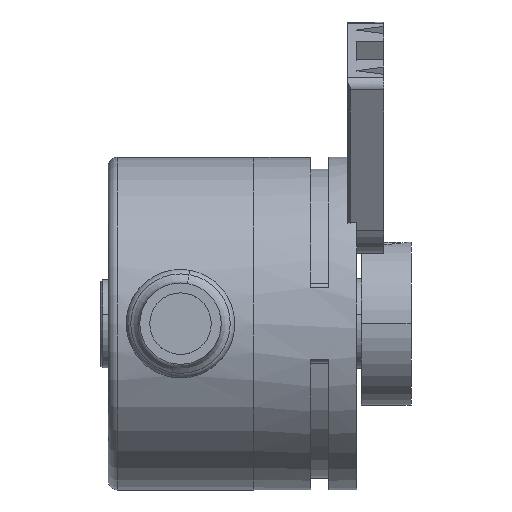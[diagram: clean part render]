
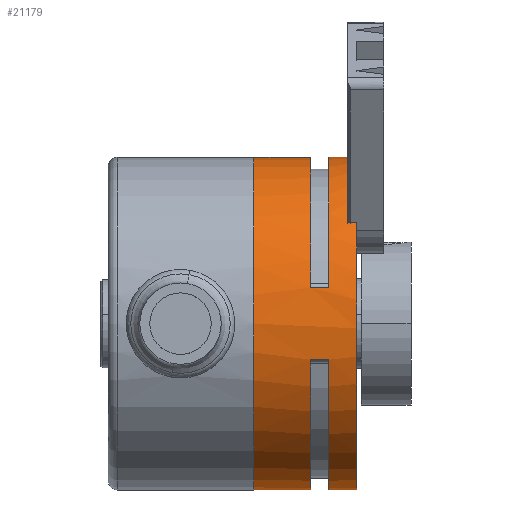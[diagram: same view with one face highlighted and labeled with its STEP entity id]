
A CAD part, front view. The second image highlights one B-rep face of the part: STEP entity #21179.
In plain terms, the highlighted cylindrical face has radius 18.4 mm (diameter 36.8 mm), a partial arc.
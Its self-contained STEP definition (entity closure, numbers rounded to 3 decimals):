
#592 = VERTEX_POINT ( 'NONE', #29498 ) ;
#667 = EDGE_CURVE ( 'NONE', #592, #25739, #29529, .T. ) ;
#924 = VERTEX_POINT ( 'NONE', #29539 ) ;
#948 = VERTEX_POINT ( 'NONE', #29537 ) ;
#993 = EDGE_CURVE ( 'NONE', #23570, #924, #29588, .T. ) ;
#7669 = CARTESIAN_POINT ( 'NONE',  ( -81.16, -17.498, -18.4 ) ) ;
#9810 = CARTESIAN_POINT ( 'NONE',  ( -92.56, -17.498, 18.4 ) ) ;
#9828 = CARTESIAN_POINT ( 'NONE',  ( -81.16, -17.498, 18.4 ) ) ;
#12982 = CARTESIAN_POINT ( 'NONE',  ( -84.26, -17.498, -18.4 ) ) ;
#17295 = DIRECTION ( 'NONE',  ( 1., 0., 0. ) ) ;
#17296 = VECTOR ( 'NONE', #17295, 1000. ) ;
#17298 = CARTESIAN_POINT ( 'NONE',  ( -76.76, -17.498, -18.4 ) ) ;
#17304 = LINE ( 'NONE', #17298, #17296 ) ;
#21159 = ORIENTED_EDGE ( 'NONE', *, *, #993, .F. ) ;
#21160 = ORIENTED_EDGE ( 'NONE', *, *, #21175, .T. ) ;
#21163 = ORIENTED_EDGE ( 'NONE', *, *, #29284, .T. ) ;
#21164 = ORIENTED_EDGE ( 'NONE', *, *, #21165, .T. ) ;
#21165 = EDGE_CURVE ( 'NONE', #29280, #21166, #32139, .T. ) ;
#21166 = VERTEX_POINT ( 'NONE', #32188 ) ;
#21167 = ORIENTED_EDGE ( 'NONE', *, *, #21202, .T. ) ;
#21175 = EDGE_CURVE ( 'NONE', #23570, #948, #32182, .T. ) ;
#21179 = ADVANCED_FACE ( 'NONE', ( #32171 ), #32211, .T. ) ;
#21180 = EDGE_LOOP ( 'NONE', ( #21159, #21160, #21163, #21164, #21167, #21206, #21211, #21210, #21226, #21186, #21199, #21197, #21203, #21204, #21219, #21193 ) ) ;
#21186 = ORIENTED_EDGE ( 'NONE', *, *, #21187, .F. ) ;
#21187 = EDGE_CURVE ( 'NONE', #21188, #21222, #32197, .T. ) ;
#21188 = VERTEX_POINT ( 'NONE', #32192 ) ;
#21193 = ORIENTED_EDGE ( 'NONE', *, *, #21194, .T. ) ;
#21194 = EDGE_CURVE ( 'NONE', #21200, #924, #32250, .T. ) ;
#21195 = EDGE_CURVE ( 'NONE', #21188, #21196, #32251, .T. ) ;
#21196 = VERTEX_POINT ( 'NONE', #32242 ) ;
#21197 = ORIENTED_EDGE ( 'NONE', *, *, #21272, .F. ) ;
#21198 = EDGE_CURVE ( 'NONE', #21218, #592, #32241, .T. ) ;
#21199 = ORIENTED_EDGE ( 'NONE', *, *, #21195, .T. ) ;
#21200 = VERTEX_POINT ( 'NONE', #32236 ) ;
#21202 = EDGE_CURVE ( 'NONE', #21166, #21205, #32235, .T. ) ;
#21203 = ORIENTED_EDGE ( 'NONE', *, *, #667, .F. ) ;
#21204 = ORIENTED_EDGE ( 'NONE', *, *, #21198, .F. ) ;
#21205 = VERTEX_POINT ( 'NONE', #32231 ) ;
#21206 = ORIENTED_EDGE ( 'NONE', *, *, #21228, .F. ) ;
#21210 = ORIENTED_EDGE ( 'NONE', *, *, #21212, .F. ) ;
#21211 = ORIENTED_EDGE ( 'NONE', *, *, #24453, .T. ) ;
#21212 = EDGE_CURVE ( 'NONE', #21227, #25398, #32262, .T. ) ;
#21218 = VERTEX_POINT ( 'NONE', #32303 ) ;
#21219 = ORIENTED_EDGE ( 'NONE', *, *, #21220, .F. ) ;
#21220 = EDGE_CURVE ( 'NONE', #21200, #21218, #32302, .T. ) ;
#21221 = EDGE_CURVE ( 'NONE', #21222, #21227, #32298, .T. ) ;
#21222 = VERTEX_POINT ( 'NONE', #32294 ) ;
#21226 = ORIENTED_EDGE ( 'NONE', *, *, #21221, .F. ) ;
#21227 = VERTEX_POINT ( 'NONE', #32288 ) ;
#21228 = EDGE_CURVE ( 'NONE', #23983, #21205, #32287, .T. ) ;
#21272 = EDGE_CURVE ( 'NONE', #25739, #21196, #32375, .T. ) ;
#23570 = VERTEX_POINT ( 'NONE', #9810 ) ;
#23983 = VERTEX_POINT ( 'NONE', #12982 ) ;
#24453 = EDGE_CURVE ( 'NONE', #23983, #25398, #17304, .T. ) ;
#25398 = VERTEX_POINT ( 'NONE', #7669 ) ;
#25739 = VERTEX_POINT ( 'NONE', #9828 ) ;
#29280 = VERTEX_POINT ( 'NONE', #35726 ) ;
#29284 = EDGE_CURVE ( 'NONE', #948, #29280, #35704, .T. ) ;
#29498 = CARTESIAN_POINT ( 'NONE',  ( -84.26, -17.498, 18.4 ) ) ;
#29526 = DIRECTION ( 'NONE',  ( 1., 0., 0. ) ) ;
#29527 = VECTOR ( 'NONE', #29526, 1000. ) ;
#29528 = CARTESIAN_POINT ( 'NONE',  ( -76.76, -17.498, 18.4 ) ) ;
#29529 = LINE ( 'NONE', #29528, #29527 ) ;
#29537 = CARTESIAN_POINT ( 'NONE',  ( -92.56, -17.498, -18.4 ) ) ;
#29539 = CARTESIAN_POINT ( 'NONE',  ( -86.26, -17.498, 18.4 ) ) ;
#29581 = DIRECTION ( 'NONE',  ( 1., 0., 0. ) ) ;
#29582 = VECTOR ( 'NONE', #29581, 1000. ) ;
#29583 = CARTESIAN_POINT ( 'NONE',  ( -76.76, -17.498, 18.4 ) ) ;
#29588 = LINE ( 'NONE', #29583, #29582 ) ;
#32135 = DIRECTION ( 'NONE',  ( 0., 0., 1. ) ) ;
#32136 = DIRECTION ( 'NONE',  ( -1., 0., 0. ) ) ;
#32137 = CARTESIAN_POINT ( 'NONE',  ( -86.26, -17.498, 0. ) ) ;
#32138 = AXIS2_PLACEMENT_3D ( 'NONE', #32137, #32136, #32135 ) ;
#32139 = CIRCLE ( 'NONE', #32138, 18.4 ) ;
#32171 = FACE_OUTER_BOUND ( 'NONE', #21180, .T. ) ;
#32178 = DIRECTION ( 'NONE',  ( 0., 0., -1. ) ) ;
#32179 = DIRECTION ( 'NONE',  ( 1., 0., 0. ) ) ;
#32180 = CARTESIAN_POINT ( 'NONE',  ( -92.56, -17.498, 0. ) ) ;
#32181 = AXIS2_PLACEMENT_3D ( 'NONE', #32180, #32179, #32178 ) ;
#32182 = CIRCLE ( 'NONE', #32181, 18.4 ) ;
#32188 = CARTESIAN_POINT ( 'NONE',  ( -86.26, -35.458, -4. ) ) ;
#32192 = CARTESIAN_POINT ( 'NONE',  ( -82.16, -19.944, 18.237 ) ) ;
#32193 = DIRECTION ( 'NONE',  ( 0., 0., -1. ) ) ;
#32194 = DIRECTION ( 'NONE',  ( 1., 0., 0. ) ) ;
#32195 = CARTESIAN_POINT ( 'NONE',  ( -82.16, -17.498, 0. ) ) ;
#32196 = AXIS2_PLACEMENT_3D ( 'NONE', #32195, #32194, #32193 ) ;
#32197 = CIRCLE ( 'NONE', #32196, 18.4 ) ;
#32208 = DIRECTION ( 'NONE',  ( 0., 0., -1. ) ) ;
#32209 = DIRECTION ( 'NONE',  ( 1., 0., 0. ) ) ;
#32210 = AXIS2_PLACEMENT_3D ( 'NONE', #32213, #32209, #32208 ) ;
#32211 = CYLINDRICAL_SURFACE ( 'NONE', #32210, 18.4 ) ;
#32213 = CARTESIAN_POINT ( 'NONE',  ( -76.76, -17.498, 0. ) ) ;
#32231 = CARTESIAN_POINT ( 'NONE',  ( -84.26, -35.458, -4. ) ) ;
#32232 = DIRECTION ( 'NONE',  ( 1., 0., 0. ) ) ;
#32233 = VECTOR ( 'NONE', #32232, 1000. ) ;
#32234 = CARTESIAN_POINT ( 'NONE',  ( -86.26, -35.458, -4. ) ) ;
#32235 = LINE ( 'NONE', #32234, #32233 ) ;
#32236 = CARTESIAN_POINT ( 'NONE',  ( -86.26, -35.458, 4. ) ) ;
#32237 = DIRECTION ( 'NONE',  ( 0., 0., 1. ) ) ;
#32238 = DIRECTION ( 'NONE',  ( -1., 0., 0. ) ) ;
#32239 = CARTESIAN_POINT ( 'NONE',  ( -84.26, -17.498, 0. ) ) ;
#32240 = AXIS2_PLACEMENT_3D ( 'NONE', #32239, #32238, #32237 ) ;
#32241 = CIRCLE ( 'NONE', #32240, 18.4 ) ;
#32242 = CARTESIAN_POINT ( 'NONE',  ( -81.16, -19.944, 18.237 ) ) ;
#32243 = DIRECTION ( 'NONE',  ( 1., 0., 0. ) ) ;
#32244 = VECTOR ( 'NONE', #32243, 1000. ) ;
#32245 = CARTESIAN_POINT ( 'NONE',  ( -82.16, -19.944, 18.237 ) ) ;
#32246 = DIRECTION ( 'NONE',  ( 0., 0., 1. ) ) ;
#32247 = DIRECTION ( 'NONE',  ( -1., 0., 0. ) ) ;
#32248 = CARTESIAN_POINT ( 'NONE',  ( -86.26, -17.498, 0. ) ) ;
#32249 = AXIS2_PLACEMENT_3D ( 'NONE', #32248, #32247, #32246 ) ;
#32250 = CIRCLE ( 'NONE', #32249, 18.4 ) ;
#32251 = LINE ( 'NONE', #32245, #32244 ) ;
#32258 = DIRECTION ( 'NONE',  ( 0., 0., -1. ) ) ;
#32259 = DIRECTION ( 'NONE',  ( 1., 0., 0. ) ) ;
#32260 = CARTESIAN_POINT ( 'NONE',  ( -81.16, -17.498, 0. ) ) ;
#32261 = AXIS2_PLACEMENT_3D ( 'NONE', #32260, #32259, #32258 ) ;
#32262 = CIRCLE ( 'NONE', #32261, 18.4 ) ;
#32283 = DIRECTION ( 'NONE',  ( 0., 0., 1. ) ) ;
#32284 = DIRECTION ( 'NONE',  ( -1., 0., 0. ) ) ;
#32285 = CARTESIAN_POINT ( 'NONE',  ( -84.26, -17.498, 0. ) ) ;
#32286 = AXIS2_PLACEMENT_3D ( 'NONE', #32285, #32284, #32283 ) ;
#32287 = CIRCLE ( 'NONE', #32286, 18.4 ) ;
#32288 = CARTESIAN_POINT ( 'NONE',  ( -81.16, -32.069, 11.237 ) ) ;
#32294 = CARTESIAN_POINT ( 'NONE',  ( -82.16, -32.069, 11.237 ) ) ;
#32295 = DIRECTION ( 'NONE',  ( 1., 0., 0. ) ) ;
#32296 = VECTOR ( 'NONE', #32295, 1000. ) ;
#32297 = CARTESIAN_POINT ( 'NONE',  ( -82.16, -32.069, 11.237 ) ) ;
#32298 = LINE ( 'NONE', #32297, #32296 ) ;
#32299 = DIRECTION ( 'NONE',  ( 1., 0., 0. ) ) ;
#32300 = VECTOR ( 'NONE', #32299, 1000. ) ;
#32301 = CARTESIAN_POINT ( 'NONE',  ( -86.26, -35.458, 4. ) ) ;
#32302 = LINE ( 'NONE', #32301, #32300 ) ;
#32303 = CARTESIAN_POINT ( 'NONE',  ( -84.26, -35.458, 4. ) ) ;
#32372 = DIRECTION ( 'NONE',  ( 1., 0., 0. ) ) ;
#32373 = CARTESIAN_POINT ( 'NONE',  ( -81.16, -17.498, 0. ) ) ;
#32374 = AXIS2_PLACEMENT_3D ( 'NONE', #32373, #32372, #32423 ) ;
#32375 = CIRCLE ( 'NONE', #32374, 18.4 ) ;
#32423 = DIRECTION ( 'NONE',  ( 0., 0., -1. ) ) ;
#35701 = DIRECTION ( 'NONE',  ( 1., 0., 0. ) ) ;
#35702 = VECTOR ( 'NONE', #35701, 1000. ) ;
#35703 = CARTESIAN_POINT ( 'NONE',  ( -76.76, -17.498, -18.4 ) ) ;
#35704 = LINE ( 'NONE', #35703, #35702 ) ;
#35726 = CARTESIAN_POINT ( 'NONE',  ( -86.26, -17.498, -18.4 ) ) ;
